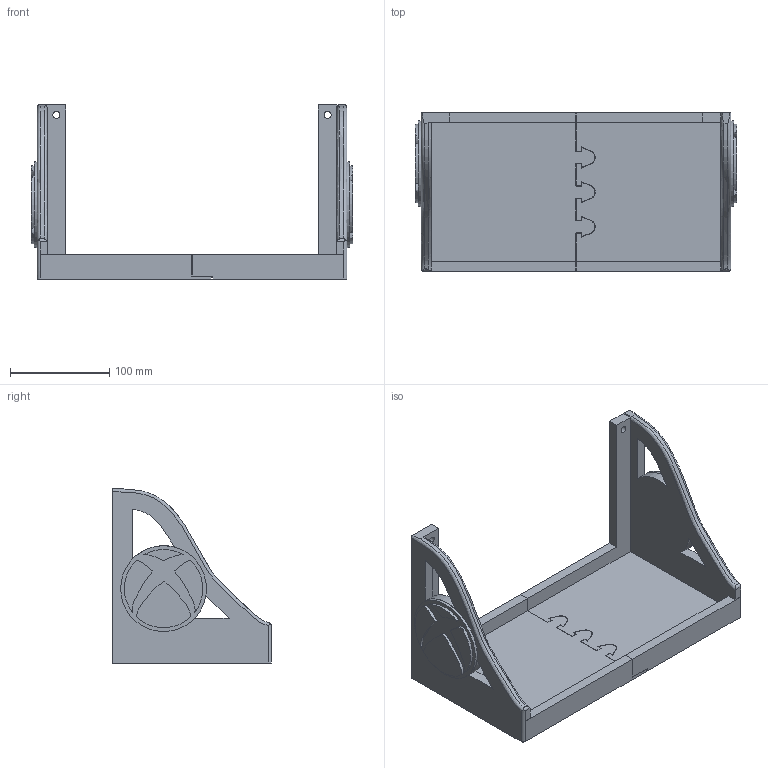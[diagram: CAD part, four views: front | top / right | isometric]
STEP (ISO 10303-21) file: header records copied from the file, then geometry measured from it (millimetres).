
FILE_DESCRIPTION(/* description */ ('Alibre Inc.'),/* implementation_level */ '2;1');
FILE_NAME(/* name */ 'export-5EFB2745-CA43-4019-8FED-99478D2AE1B1',/* time_stamp */ '2024-03-24T22:57:44-04:00',/* author */ (''),/* organization */ (''),/* preprocessor_version */ 'ST-DEVELOPER v17',/* originating_system */ 'Alibre',/* authorisation */ '');
FILE_SCHEMA (('CONFIG_CONTROL_DESIGN'));
Length unit declared in the file: millimetre
Bounding box: 324.1 x 159.7 x 175.32 mm (x, y, z)
Volume: 1010909.5 mm3; surface area: 248071.6 mm2
Topology: 4 solids, 4 shells, 155 faces, 418 edges, 279 vertices
Faces by surface type: plane 95, bspline 32, cylinder 28
Full cylindrical faces by diameter (mm): 7 x2, 86.487 x2
Entity records: 7029 total; most frequent: CARTESIAN_POINT 3526, ORIENTED_EDGE 724, DIRECTION 458, EDGE_CURVE 362, VECTOR 249, LINE 249, VERTEX_POINT 243, EDGE_LOOP 151
